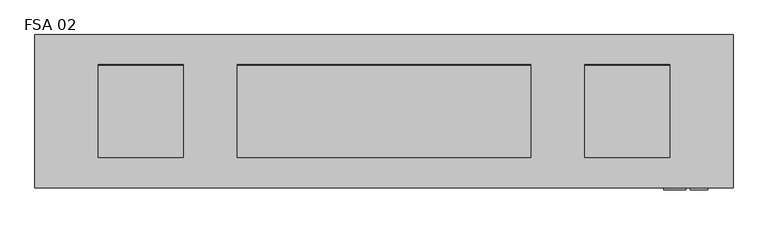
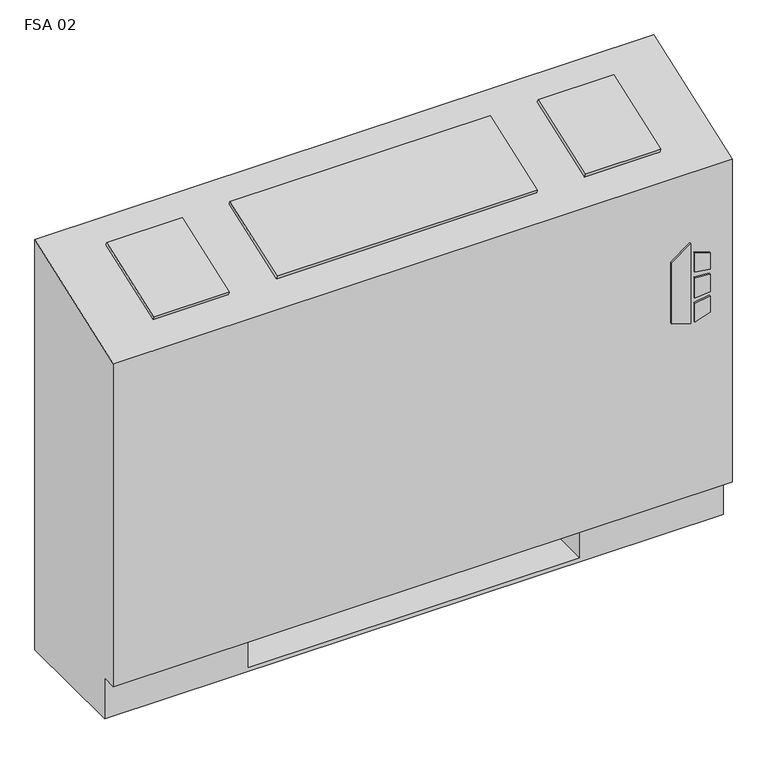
"""IFC4 building model written with IfcOpenShell, lengths in millimetres: proxy geometry, Vertical_Fan_Coil_Unit_-_FSA_-_IEC_-_4-Pipe_TS-FR_RH_2022 : FSA 02."""

from ifc_helpers import new_model, si_unit, point, frame, frame_2d, origin, place, context, project, spatial, polyline, circle_curve, trimmed, segment, composite_curve, outline, extrude, source, transform, mapped, element, save
from ifc_brep_helpers import plane_surface, revolved_surface, advanced_brep


def fsa_02_00a29073(model_context):
    return source(origin(), model_context, "Body", "SolidModel", [
        extrude(outline(polyline([(391.6086829, 569.9868862), (381.6606126, 602.1602728), (523.831537, 602.1602728), (500.8095309, 569.9868862), (391.6086829, 569.9868862)])), frame((0.0, 12.7, 0.0), z_axis=(0.0, 1.0, 0.0), x_axis=(0.0, 0.0, 1.0)), (0.0, 0.0, 1.0), 3.175),
        extrude(outline(polyline([(470.6079683, 608.9186058), (467.4055757, 635.0), (496.6344168, 635.0), (504.6988318, 608.9186058), (470.6079683, 608.9186058)])), frame((0.0, 12.7, 0.0), z_axis=(0.0, 1.0, 0.0), x_axis=(0.0, 0.0, 1.0)), (0.0, 0.0, 1.0), 3.175),
        extrude(outline(polyline([(418.7444414, 635.0), (415.0789404, 608.9186058), (381.6606126, 608.9186058), (390.2948498, 635.0), (418.7444414, 635.0)])), frame((0.0, 12.7, 0.0), z_axis=(0.0, 1.0, 0.0), x_axis=(0.0, 0.0, 1.0)), (0.0, 0.0, 1.0), 3.175),
        extrude(outline(polyline([(458.0596028, 635.0), (460.3414292, 608.9186058), (424.4038806, 608.9186058), (427.1451456, 635.0), (458.0596028, 635.0)])), frame((0.0, 12.7, 0.0), z_axis=(0.0, 1.0, 0.0), x_axis=(0.0, 0.0, 1.0)), (0.0, 0.0, 1.0), 3.175),
        extrude(outline(polyline([(-247.65, 81.534), (-247.65, 223.266), (-127.0, 223.266), (-127.0, 81.534), (-247.65, 81.534)])), frame((0.0, 0.0, 327.025), z_axis=(0.0, 0.0, 1.0), x_axis=(1.0, 0.0, 0.0)), (0.0, 0.0, 1.0), 260.35),
        extrude(outline(composite_curve([segment(trimmed(circle_curve(frame_2d((495.3, 130.175)), 9.525), [point((485.775, 130.175))], [point((504.825, 130.175))], False, "CARTESIAN"), True, "CONTINUOUS"), segment(trimmed(circle_curve(frame_2d((495.3, 130.175)), 9.525), [point((504.825, 130.175))], [point((485.775, 130.175))], False, "CARTESIAN"), True, "CONTINUOUS")], self_intersect=False)), frame((0.0, 0.0, 101.6), z_axis=(0.0, 0.0, 1.0), x_axis=(1.0, 0.0, 0.0)), (0.0, 0.0, 1.0), 25.4),
        extrude(outline(polyline([(596.9, 196.85), (596.9, 63.5), (431.8, 63.5), (431.8, 196.85), (596.9, 196.85)])), frame((0.0, 0.0, 127.0), z_axis=(0.0, 0.0, 1.0), x_axis=(1.0, 0.0, 0.0)), (0.0, 0.0, 1.0), 50.8),
        extrude(outline(polyline([(0.0, -146.0500001), (0.0, 0.0), (127.0, 0.0), (127.0, -146.0500001), (0.0, -146.0500001)])), frame((-274.193, 200.4217127, 714.3418685), z_axis=(0.0, -0.3396444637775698, 0.9405538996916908), x_axis=(1.0, 0.0, 0.0)), (0.0, 0.0, 1.0), 6.35),
        extrude(outline(polyline([(0.0, -146.0500001), (0.0, 0.0), (438.15, 0.0), (438.15, -146.0500001), (0.0, -146.0500001)])), frame((371.475, 63.0538156, 664.7367945), z_axis=(0.0, -0.33964446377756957, 0.9405538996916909), x_axis=(-1.0, 0.0, 0.0)), (0.0, 0.0, 1.0), 6.35),
        extrude(outline(polyline([(0.0, -146.0500001), (0.0, 0.0), (127.0, 0.0), (127.0, -146.0500001), (0.0, -146.0500001)])), frame((578.993, 63.0538156, 664.7367945), z_axis=(0.0, -0.3396444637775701, 0.9405538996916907), x_axis=(-1.0, 0.0, 0.0)), (0.0, 0.0, 1.0), 6.35),
        extrude(outline(composite_curve([segment(trimmed(circle_curve(frame_2d((117.475, 472.44)), 7.9375), [point((117.475, 480.3775))], [point((117.475, 464.5025))], False, "CARTESIAN"), True, "CONTINUOUS"), segment(trimmed(circle_curve(frame_2d((117.475, 472.44)), 7.9375), [point((117.475, 464.5025))], [point((117.475, 480.3775))], False, "CARTESIAN"), True, "CONTINUOUS")], self_intersect=False)), frame((431.8, 0.0, 0.0), z_axis=(1.0, 0.0, 0.0), x_axis=(0.0, 1.0, 0.0)), (0.0, 0.0, 1.0), 50.8),
        extrude(outline(composite_curve([segment(trimmed(circle_curve(frame_2d((164.0586, 445.897)), 7.9375), [point((164.0586, 453.8345))], [point((164.0586, 437.9595))], False, "CARTESIAN"), True, "CONTINUOUS"), segment(trimmed(circle_curve(frame_2d((164.0586, 445.897)), 7.9375), [point((164.0586, 437.9595))], [point((164.0586, 453.8345))], False, "CARTESIAN"), True, "CONTINUOUS")], self_intersect=False)), frame((431.8, 0.0, 0.0), z_axis=(1.0, 0.0, 0.0), x_axis=(0.0, 1.0, 0.0)), (0.0, 0.0, 1.0), 50.8),
        extrude(outline(composite_curve([segment(trimmed(circle_curve(frame_2d((130.175, 554.99)), 7.9502), [point((130.175, 562.9402))], [point((130.175, 547.0398))], False, "CARTESIAN"), True, "CONTINUOUS"), segment(trimmed(circle_curve(frame_2d((130.175, 554.99)), 7.9502), [point((130.175, 547.0398))], [point((130.175, 562.9402))], False, "CARTESIAN"), True, "CONTINUOUS")], self_intersect=False)), frame((431.8, 0.0, 0.0), z_axis=(1.0, 0.0, 0.0), x_axis=(0.0, 1.0, 0.0)), (0.0, 0.0, 1.0), 50.8),
        extrude(outline(composite_curve([segment(trimmed(circle_curve(frame_2d((53.975, 416.56)), 7.9502), [point((53.975, 424.5102))], [point((53.975, 408.6098))], False, "CARTESIAN"), True, "CONTINUOUS"), segment(trimmed(circle_curve(frame_2d((53.975, 416.56)), 7.9502), [point((53.975, 408.6098))], [point((53.975, 424.5102))], False, "CARTESIAN"), True, "CONTINUOUS")], self_intersect=False)), frame((431.8, 0.0, 0.0), z_axis=(1.0, 0.0, 0.0), x_axis=(0.0, 1.0, 0.0)), (0.0, 0.0, 1.0), 50.8),
        advanced_brep(
        [(-368.3, 244.475, 0.0), (673.1, 244.475, 0.0), (673.1, 41.275, 0.0), (-368.3, 41.275, 0.0), (-368.3, 244.475, 730.25), (673.1, 244.475, 730.25), (431.8, 244.475, 73.025), (660.4, 244.475, 73.025), (660.4, 244.475, 654.05), (431.8, 244.475, 654.05), (431.8, 244.475, 414.8650565), (460.375, 244.475, 414.8650565), (460.375, 244.475, 385.2349435), (431.8, 244.475, 385.2349435), (431.8, 244.475, 287.3375), (460.375, 244.475, 287.3375), (460.375, 244.475, 258.7625), (431.8, 244.475, 258.7625), (431.8, 244.475, 141.2875), (460.375, 244.475, 141.2875), (460.375, 244.475, 112.7125), (431.8, 244.475, 112.7125), (-127.0, 244.475, 654.05), (-355.6, 244.475, 654.05), (-355.6, 244.475, 73.025), (-127.0, 244.475, 73.025), (-127.0, 244.475, 112.7125), (-155.575, 244.475, 112.7125), (-155.575, 244.475, 141.2875), (-127.0, 244.475, 141.2875), (-127.0, 244.475, 258.7625), (-155.575, 244.475, 258.7625), (-155.575, 244.475, 287.3375), (-127.0, 244.475, 287.3375), (-127.0, 244.475, 385.2349435), (-155.575, 244.475, 385.2349435), (-155.575, 244.475, 414.8650565), (-127.0, 244.475, 414.8650565), (450.0626, 244.475, 127.0), (438.9374, 244.475, 127.0), (450.0626, 244.475, 400.05), (438.9374, 244.475, 400.05), (450.0626, 244.475, 273.05), (438.9374, 244.475, 273.05), (-134.1374, 244.475, 127.0), (-145.2626, 244.475, 127.0), (-134.1374, 244.475, 273.05), (-145.2626, 244.475, 273.05), (-134.1374, 244.475, 400.05), (-145.2626, 244.475, 400.05), (-368.3, 41.275, 73.025), (-368.3, 15.875, 73.025), (-368.3, 15.875, 647.7), (673.1, 15.875, 73.025), (673.1, 15.875, 647.7), (673.1, 41.275, 73.025), (-127.0, 41.275, 73.025), (-127.0, 225.425, 73.025), (431.8, 225.425, 73.025), (431.8, 41.275, 73.025), (431.8, 41.275, 6.35), (-127.0, 41.275, 6.35), (431.8, 41.275, 654.05), (660.4, 41.275, 654.05), (660.4, 41.275, 73.025), (431.8, 41.275, 73.025), (-127.0, 41.275, 654.05), (-127.0, 41.275, 73.025), (-355.6, 41.275, 73.025), (-355.6, 41.275, 654.05), (431.8, 225.425, 73.025), (431.8, 238.125, 112.7125), (431.8, 238.125, 141.2875), (431.8, 238.125, 258.7625), (431.8, 238.125, 287.3375), (431.8, 238.125, 385.2349435), (431.8, 238.125, 414.8650565), (-127.0, 225.425, 73.025), (-127.0, 238.125, 414.8650565), (-127.0, 238.125, 385.2349435), (-127.0, 238.125, 287.3375), (-127.0, 238.125, 258.7625), (-127.0, 238.125, 141.2875), (-127.0, 238.125, 112.7125), (-127.0, 225.425, 6.35), (431.8, 225.425, 6.35), (460.375, 238.125, 112.7125), (460.375, 238.125, 141.2875), (438.9374, 238.125, 127.0), (450.0626, 238.125, 127.0), (460.375, 238.125, 258.7625), (460.375, 238.125, 287.3375), (438.9374, 238.125, 273.05), (450.0626, 238.125, 273.05), (460.375, 238.125, 385.2349435), (460.375, 238.125, 414.8650565), (438.9374, 238.125, 400.05), (450.0626, 238.125, 400.05), (-155.575, 238.125, 141.2875), (-155.575, 238.125, 112.7125), (-145.2626, 238.125, 127.0), (-134.1374, 238.125, 127.0), (-155.575, 238.125, 287.3375), (-155.575, 238.125, 258.7625), (-145.2626, 238.125, 273.05), (-134.1374, 238.125, 273.05), (-155.575, 238.125, 414.8650565), (-155.575, 238.125, 385.2349435), (-145.2626, 238.125, 400.05), (-134.1374, 238.125, 400.05)],
        [
            (0, 1),
            (1, 2),
            (2, 3),
            (3, 0),
            (0, 4),
            (4, 5),
            (5, 1),
            (6, 7),
            (7, 8),
            (8, 9),
            (9, 10),
            (10, 11),
            (11, 12),
            (12, 13),
            (13, 14),
            (14, 15),
            (15, 16),
            (16, 17),
            (17, 18),
            (18, 19),
            (19, 20),
            (20, 21),
            (21, 6),
            (22, 23),
            (23, 24),
            (24, 25),
            (25, 26),
            (26, 27),
            (27, 28),
            (28, 29),
            (29, 30),
            (30, 31),
            (31, 32),
            (32, 33),
            (33, 34),
            (34, 35),
            (35, 36),
            (36, 37),
            (37, 22),
            (38, 39, circle_curve(frame((444.5, 244.475, 127.0), z_axis=(0.0, -1.0, 0.0), x_axis=(-1.0, 0.0, 0.0)), 5.5626)),
            (39, 38, circle_curve(frame((444.5, 244.475, 127.0), z_axis=(0.0, -1.0, 0.0), x_axis=(-1.0, 0.0, 0.0)), 5.5626)),
            (40, 41, circle_curve(frame((444.5, 244.475, 400.05), z_axis=(0.0, -1.0, 0.0), x_axis=(-1.0, 0.0, 0.0)), 5.5626)),
            (41, 40, circle_curve(frame((444.5, 244.475, 400.05), z_axis=(0.0, -1.0, 0.0), x_axis=(-1.0, 0.0, 0.0)), 5.5626)),
            (42, 43, circle_curve(frame((444.5, 244.475, 273.05), z_axis=(0.0, -1.0, 0.0), x_axis=(-1.0, 0.0, 0.0)), 5.5626)),
            (43, 42, circle_curve(frame((444.5, 244.475, 273.05), z_axis=(0.0, -1.0, 0.0), x_axis=(-1.0, 0.0, 0.0)), 5.5626)),
            (44, 45, circle_curve(frame((-139.7, 244.475, 127.0), z_axis=(0.0, -1.0, 0.0), x_axis=(-1.0, 0.0, 0.0)), 5.5626)),
            (45, 44, circle_curve(frame((-139.7, 244.475, 127.0), z_axis=(0.0, -1.0, 0.0), x_axis=(-1.0, 0.0, 0.0)), 5.5626)),
            (46, 47, circle_curve(frame((-139.7, 244.475, 273.05), z_axis=(0.0, -1.0, 0.0), x_axis=(-1.0, 0.0, 0.0)), 5.5626)),
            (47, 46, circle_curve(frame((-139.7, 244.475, 273.05), z_axis=(0.0, -1.0, 0.0), x_axis=(-1.0, 0.0, 0.0)), 5.5626)),
            (48, 49, circle_curve(frame((-139.7, 244.475, 400.05), z_axis=(0.0, -1.0, 0.0), x_axis=(-1.0, 0.0, 0.0)), 5.5626)),
            (49, 48, circle_curve(frame((-139.7, 244.475, 400.05), z_axis=(0.0, -1.0, 0.0), x_axis=(-1.0, 0.0, 0.0)), 5.5626)),
            (3, 50),
            (50, 51),
            (51, 52),
            (52, 4),
            (51, 53),
            (53, 54),
            (54, 52),
            (5, 54),
            (53, 55),
            (55, 2),
            (50, 56),
            (56, 57),
            (57, 58),
            (58, 59),
            (59, 55),
            (59, 60),
            (60, 61),
            (61, 56),
            (62, 63),
            (63, 64),
            (64, 65),
            (65, 62),
            (66, 67),
            (67, 68),
            (68, 69),
            (69, 66),
            (65, 70),
            (70, 6),
            (21, 71),
            (71, 72),
            (72, 18),
            (17, 73),
            (73, 74),
            (74, 14),
            (13, 75),
            (75, 76),
            (76, 10),
            (9, 62),
            (64, 7),
            (63, 8),
            (69, 23),
            (22, 66),
            (68, 24),
            (67, 77),
            (77, 25),
            (37, 78),
            (78, 79),
            (79, 34),
            (33, 80),
            (80, 81),
            (81, 30),
            (29, 82),
            (82, 83),
            (83, 26),
            (57, 84),
            (84, 85),
            (85, 58),
            (85, 60),
            (84, 61),
            (71, 86),
            (86, 87),
            (87, 72),
            (88, 89, circle_curve(frame((444.5, 238.125, 127.0), z_axis=(0.0, 1.0, 0.0), x_axis=(-1.0, 0.0, 0.0)), 5.5626)),
            (89, 88, circle_curve(frame((444.5, 238.125, 127.0), z_axis=(0.0, 1.0, 0.0), x_axis=(-1.0, 0.0, 0.0)), 5.5626)),
            (73, 90),
            (90, 91),
            (91, 74),
            (92, 93, circle_curve(frame((444.5, 238.125, 273.05), z_axis=(0.0, 1.0, 0.0), x_axis=(-1.0, 0.0, 0.0)), 5.5626)),
            (93, 92, circle_curve(frame((444.5, 238.125, 273.05), z_axis=(0.0, 1.0, 0.0), x_axis=(-1.0, 0.0, 0.0)), 5.5626)),
            (75, 94),
            (94, 95),
            (95, 76),
            (96, 97, circle_curve(frame((444.5, 238.125, 400.05), z_axis=(0.0, 1.0, 0.0), x_axis=(-1.0, 0.0, 0.0)), 5.5626)),
            (97, 96, circle_curve(frame((444.5, 238.125, 400.05), z_axis=(0.0, 1.0, 0.0), x_axis=(-1.0, 0.0, 0.0)), 5.5626)),
            (98, 99),
            (99, 83),
            (82, 98),
            (100, 101, circle_curve(frame((-139.7, 238.125, 127.0), z_axis=(0.0, 1.0, 0.0), x_axis=(-1.0, 0.0, 0.0)), 5.5626)),
            (101, 100, circle_curve(frame((-139.7, 238.125, 127.0), z_axis=(0.0, 1.0, 0.0), x_axis=(-1.0, 0.0, 0.0)), 5.5626)),
            (102, 103),
            (103, 81),
            (80, 102),
            (104, 105, circle_curve(frame((-139.7, 238.125, 273.05), z_axis=(0.0, 1.0, 0.0), x_axis=(-1.0, 0.0, 0.0)), 5.5626)),
            (105, 104, circle_curve(frame((-139.7, 238.125, 273.05), z_axis=(0.0, 1.0, 0.0), x_axis=(-1.0, 0.0, 0.0)), 5.5626)),
            (106, 107),
            (107, 79),
            (78, 106),
            (108, 109, circle_curve(frame((-139.7, 238.125, 400.05), z_axis=(0.0, 1.0, 0.0), x_axis=(-1.0, 0.0, 0.0)), 5.5626)),
            (109, 108, circle_curve(frame((-139.7, 238.125, 400.05), z_axis=(0.0, 1.0, 0.0), x_axis=(-1.0, 0.0, 0.0)), 5.5626)),
            (87, 19),
            (86, 20),
            (91, 15),
            (90, 16),
            (95, 11),
            (94, 12),
            (28, 98),
            (99, 27),
            (32, 102),
            (103, 31),
            (36, 106),
            (107, 35),
            (88, 39),
            (38, 89),
            (96, 41),
            (40, 97),
            (92, 43),
            (42, 93),
            (100, 45),
            (44, 101),
            (104, 47),
            (46, 105),
            (108, 49),
            (48, 109),
        ],
        [
            plane_surface(frame((-368.3, 244.475, 0.0), z_axis=(0.0, 0.0, -1.0), x_axis=(1.0, 0.0, 0.0))),
            plane_surface(frame((673.1, 244.475, 730.25), z_axis=(0.0, 1.0, 0.0), x_axis=(0.0, 0.0, -1.0))),
            plane_surface(frame((-368.3, 244.475, 730.25), z_axis=(-1.0, 0.0, 0.0), x_axis=(0.0, 0.0, -1.0))),
            plane_surface(frame((-368.3, 15.875, 730.25), z_axis=(0.0, -1.0, 0.0), x_axis=(0.0, 0.0, -1.0))),
            plane_surface(frame((673.1, 15.875, 730.25), z_axis=(1.0, 0.0, 0.0), x_axis=(0.0, 0.0, -1.0))),
            plane_surface(frame((-368.3, 15.875, 73.025), z_axis=(0.0, 0.0, -1.0), x_axis=(1.0, 0.0, 0.0))),
            plane_surface(frame((-368.3, 41.275, 73.025), z_axis=(0.0, -1.0, 0.0), x_axis=(1.0, 0.0, 0.0))),
            plane_surface(frame((431.8, 41.275, 654.05), z_axis=(0.0, 1.0, 0.0), x_axis=(0.0, 0.0, -1.0))),
            plane_surface(frame((431.8, 41.275, 654.05), z_axis=(1.0, 0.0, 0.0), x_axis=(0.0, 1.0, 0.0))),
            plane_surface(frame((431.8, 41.275, 73.025), z_axis=(0.0, 0.0, 1.0), x_axis=(0.0, 1.0, 0.0))),
            plane_surface(frame((660.4, 41.275, 73.025), z_axis=(-1.0, 0.0, 0.0), x_axis=(0.0, 1.0, 0.0))),
            plane_surface(frame((660.4, 41.275, 654.05), z_axis=(0.0, 0.0, -1.0), x_axis=(0.0, 1.0, 0.0))),
            plane_surface(frame((-127.0, 41.275, 654.05), z_axis=(0.0, 0.0, -1.0), x_axis=(0.0, 1.0, 0.0))),
            plane_surface(frame((-355.6, 41.275, 654.05), z_axis=(1.0, 0.0, 0.0), x_axis=(0.0, 1.0, 0.0))),
            plane_surface(frame((-355.6, 41.275, 73.025), z_axis=(0.0, 0.0, 1.0), x_axis=(0.0, 1.0, 0.0))),
            plane_surface(frame((-127.0, 41.275, 73.025), z_axis=(-1.0, 0.0, 0.0), x_axis=(0.0, 1.0, 0.0))),
            plane_surface(frame((431.8, 225.425, 73.025), z_axis=(0.0, -1.0, 0.0), x_axis=(0.0, 0.0, -1.0))),
            plane_surface(frame((431.8, 225.425, 73.025), z_axis=(-1.0, 0.0, 0.0), x_axis=(0.0, -1.0, 0.0))),
            plane_surface(frame((431.8, 225.425, 6.35), z_axis=(0.0, 0.0, 1.0), x_axis=(0.0, -1.0, 0.0))),
            plane_surface(frame((-127.0, 225.425, 6.35), z_axis=(1.0, 0.0, 0.0), x_axis=(0.0, -1.0, 0.0))),
            plane_surface(frame((460.375, 238.125, 141.2875), z_axis=(0.0, -1.0, 0.0), x_axis=(-1.0, 0.0, 0.0))),
            plane_surface(frame((431.8, 244.475, 141.2875), z_axis=(0.0, 0.0, 1.0), x_axis=(0.0, -1.0, 0.0))),
            plane_surface(frame((460.375, 244.475, 141.2875), z_axis=(1.0, 0.0, 0.0), x_axis=(0.0, -1.0, 0.0))),
            plane_surface(frame((460.375, 244.475, 112.7125), z_axis=(0.0, 0.0, -1.0), x_axis=(0.0, -1.0, 0.0))),
            plane_surface(frame((431.8, 244.475, 287.3375), z_axis=(0.0, 0.0, 1.0), x_axis=(0.0, -1.0, 0.0))),
            plane_surface(frame((460.375, 244.475, 287.3375), z_axis=(1.0, 0.0, 0.0), x_axis=(0.0, -1.0, 0.0))),
            plane_surface(frame((460.375, 244.475, 258.7625), z_axis=(0.0, 0.0, -1.0), x_axis=(0.0, -1.0, 0.0))),
            plane_surface(frame((431.8, 244.475, 414.8650565), z_axis=(0.0, 0.0, 1.0), x_axis=(0.0, -1.0, 0.0))),
            plane_surface(frame((460.375, 244.475, 414.8650565), z_axis=(1.0, 0.0, 0.0), x_axis=(0.0, -1.0, 0.0))),
            plane_surface(frame((460.375, 244.475, 385.2349435), z_axis=(0.0, 0.0, -1.0), x_axis=(0.0, -1.0, 0.0))),
            plane_surface(frame((-155.575, 244.475, 141.2875), z_axis=(0.0, 0.0, 1.0), x_axis=(0.0, -1.0, 0.0))),
            plane_surface(frame((-127.0, 244.475, 112.7125), z_axis=(0.0, 0.0, -1.0), x_axis=(0.0, -1.0, 0.0))),
            plane_surface(frame((-155.575, 244.475, 112.7125), z_axis=(-1.0, 0.0, 0.0), x_axis=(0.0, -1.0, 0.0))),
            plane_surface(frame((-155.575, 244.475, 287.3375), z_axis=(0.0, 0.0, 1.0), x_axis=(0.0, -1.0, 0.0))),
            plane_surface(frame((-127.0, 244.475, 258.7625), z_axis=(0.0, 0.0, -1.0), x_axis=(0.0, -1.0, 0.0))),
            plane_surface(frame((-155.575, 244.475, 258.7625), z_axis=(-1.0, 0.0, 0.0), x_axis=(0.0, -1.0, 0.0))),
            plane_surface(frame((-155.575, 244.475, 414.8650565), z_axis=(0.0, 0.0, 1.0), x_axis=(0.0, -1.0, 0.0))),
            plane_surface(frame((-127.0, 244.475, 385.2349435), z_axis=(0.0, 0.0, -1.0), x_axis=(0.0, -1.0, 0.0))),
            plane_surface(frame((-155.575, 244.475, 385.2349435), z_axis=(-1.0, 0.0, 0.0), x_axis=(0.0, -1.0, 0.0))),
            revolved_surface(polyline([(438.9374, 238.125, 127.0), (438.9374, 244.475, 127.0)]), (444.5, 244.475, 127.0), (0.0, -1.0, 0.0)),
            revolved_surface(polyline([(438.9374, 238.125, 400.05), (438.9374, 244.475, 400.05)]), (444.5, 244.475, 400.05), (0.0, -1.0, 0.0)),
            revolved_surface(polyline([(438.9374, 238.125, 273.05), (438.9374, 244.475, 273.05)]), (444.5, 244.475, 273.05), (0.0, -1.0, 0.0)),
            revolved_surface(polyline([(-145.2626, 238.125, 127.0), (-145.2626, 244.475, 127.0)]), (-139.7, 244.475, 127.0), (0.0, -1.0, 0.0)),
            revolved_surface(polyline([(-145.2626, 238.125, 273.05), (-145.2626, 244.475, 273.05)]), (-139.7, 244.475, 273.05), (0.0, -1.0, 0.0)),
            revolved_surface(polyline([(-145.2626, 238.125, 400.05), (-145.2626, 244.475, 400.05)]), (-139.7, 244.475, 400.05), (0.0, -1.0, 0.0)),
            plane_surface(frame((-368.3, 244.475, 730.25), z_axis=(0.0, -0.33964446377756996, 0.9405538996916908), x_axis=(1.0, 0.0, 0.0))),
        ],
        [
            (0, [[1, 2, 3, 4]]),
            (1, [[-1, 5, 6, 7], [8, 9, 10, 11, 12, 13, 14, 15, 16, 17, 18, 19, 20, 21, 22, 23], [24, 25, 26, 27, 28, 29, 30, 31, 32, 33, 34, 35, 36, 37, 38, 39], [40, 41], [42, 43], [44, 45], [46, 47], [48, 49], [50, 51]]),
            (2, [[-5, -4, 52, 53, 54, 55]]),
            (3, [[56, 57, 58, -54]]),
            (4, [[-7, 59, -57, 60, 61, -2]]),
            (5, [[-53, 62, 63, 64, 65, 66, -60, -56]]),
            (6, [[-3, -61, -66, 67, 68, 69, -62, -52]]),
            (7, [[70, 71, 72, 73]]),
            (7, [[74, 75, 76, 77]]),
            (8, [[-73, 78, 79, -23, 80, 81, 82, -19, 83, 84, 85, -15, 86, 87, 88, -11, 89]]),
            (9, [[-72, 90, -8, -79, -78]]),
            (10, [[-71, 91, -9, -90]]),
            (11, [[-70, -89, -10, -91]]),
            (12, [[-77, 92, -24, 93]]),
            (13, [[-76, 94, -25, -92]]),
            (14, [[-75, 95, 96, -26, -94]]),
            (15, [[-74, -93, -39, 97, 98, 99, -35, 100, 101, 102, -31, 103, 104, 105, -27, -96, -95]]),
            (16, [[-64, 106, 107, 108]]),
            (17, [[-108, 109, -67, -65]]),
            (18, [[-107, 110, -68, -109]]),
            (19, [[-106, -63, -69, -110]]),
            (20, [[111, 112, 113, -81], [114, 115]]),
            (20, [[116, 117, 118, -84], [119, 120]]),
            (20, [[121, 122, 123, -87], [124, 125]]),
            (20, [[126, 127, -104, 128], [129, 130]]),
            (20, [[131, 132, -101, 133], [134, 135]]),
            (20, [[136, 137, -98, 138], [139, 140]]),
            (21, [[-113, 141, -20, -82]]),
            (22, [[-112, 142, -21, -141]]),
            (23, [[-111, -80, -22, -142]]),
            (24, [[-118, 143, -16, -85]]),
            (25, [[-117, 144, -17, -143]]),
            (26, [[-116, -83, -18, -144]]),
            (27, [[-123, 145, -12, -88]]),
            (28, [[-122, 146, -13, -145]]),
            (29, [[-121, -86, -14, -146]]),
            (30, [[-128, -103, -30, 147]]),
            (31, [[-127, 148, -28, -105]]),
            (32, [[-126, -147, -29, -148]]),
            (33, [[-133, -100, -34, 149]]),
            (34, [[-132, 150, -32, -102]]),
            (35, [[-131, -149, -33, -150]]),
            (36, [[-138, -97, -38, 151]]),
            (37, [[-137, 152, -36, -99]]),
            (38, [[-136, -151, -37, -152]]),
            (39, [[153, -40, 154, -114]]),
            (39, [[-153, -115, -154, -41]]),
            (40, [[155, -42, 156, -124]]),
            (40, [[-155, -125, -156, -43]]),
            (41, [[157, -44, 158, -119]]),
            (41, [[-157, -120, -158, -45]]),
            (42, [[159, -46, 160, -129]]),
            (42, [[-159, -130, -160, -47]]),
            (43, [[161, -48, 162, -134]]),
            (43, [[-161, -135, -162, -49]]),
            (44, [[163, -50, 164, -139]]),
            (44, [[-163, -140, -164, -51]]),
            (45, [[-6, -55, -58, -59]]),
        ],
    ),
    ])


if __name__ == "__main__":
    model = new_model("IFC4")
    model_context = context("Model", 3, world=origin())
    ifc_project = project(units=[si_unit("LENGTHUNIT", "METRE", prefix="MILLI")], contexts=[model_context])
    site = spatial("IfcSite", under=ifc_project)
    building = spatial("IfcBuilding", under=site)
    placement = place(None, origin())
    fsa_02_shape = fsa_02_00a29073(model_context)
    element("IfcBuildingElementProxy", 1, Name="Vertical_Fan_Coil_Unit_-_FSA_-_IEC_-_4-Pipe_TS-FR_RH_2022 : FSA 02", ObjectType="Vertical_Fan_Coil_Unit_-_FSA_-_IEC_-_4-Pipe_TS-FR_RH_2022 : FSA 02", at=placement, inside=building, context=model_context, shape_type="MappedRepresentation", body=[
        mapped(fsa_02_shape, transform((0.0, 0.0, 0.0), x_axis=(1.0, 0.0, 0.0), y_axis=(0.0, 1.0, 0.0), z_axis=(0.0, 0.0, 1.0))),
    ])
    save(model, "model.ifc")
